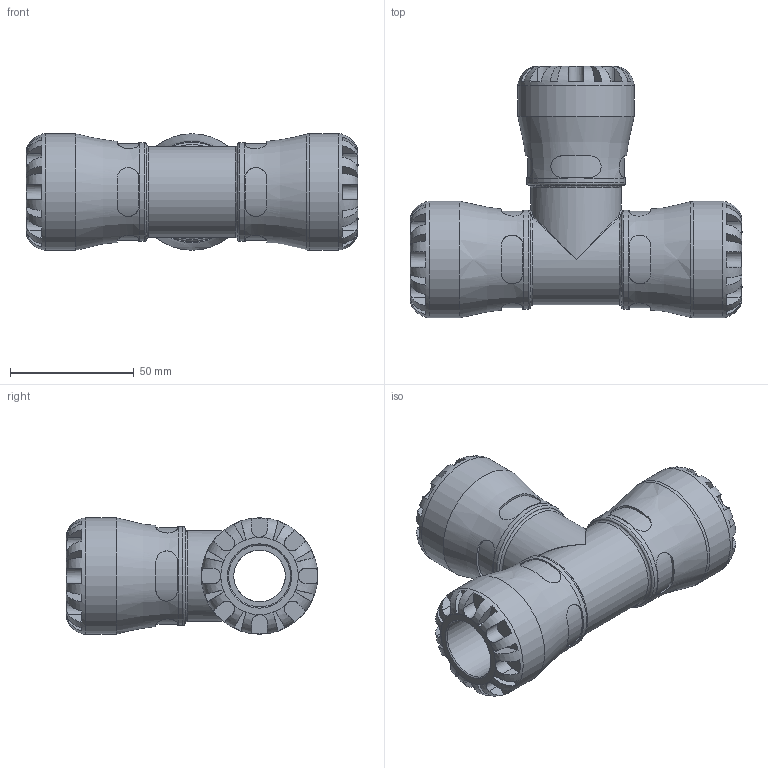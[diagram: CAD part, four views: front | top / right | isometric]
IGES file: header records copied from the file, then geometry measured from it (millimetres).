
Global section: file name: 100400025_190400025.ipt; native system: Autodesk Inventor 2015; preprocessor: unknown; author: KIM; date: 20180211.125743; units: millimetre
Bounding box: 134 x 101.5 x 47 mm (x, y, z)
Volume: 172957.9 mm3; surface area: 46855.5 mm2
Topology: 1 solids, 1 shells, 296 faces, 775 edges, 489 vertices
Faces by surface type: plane 174, revolution 68, cylinder 44, bspline 10
Full cylindrical faces by diameter (mm): 36.66 x1, 39.95 x3, 47 x3
